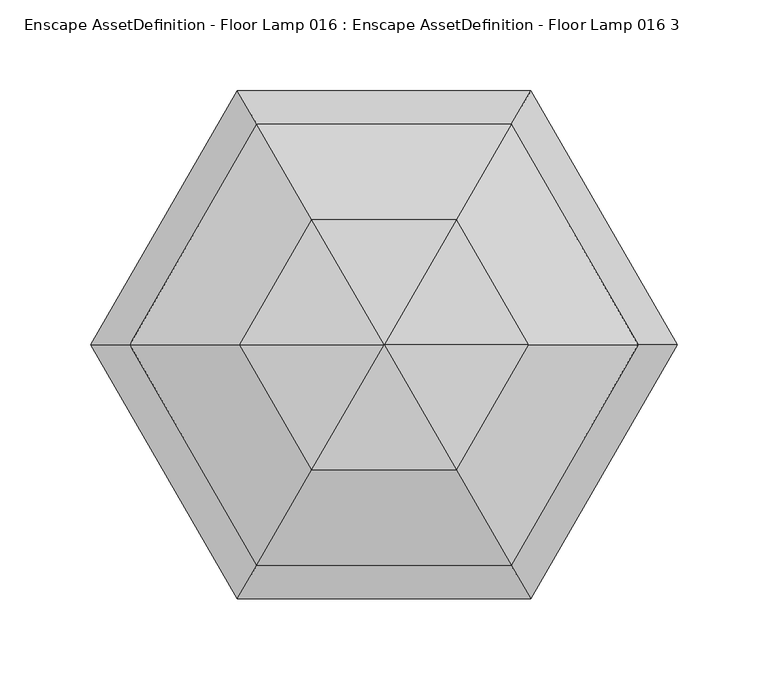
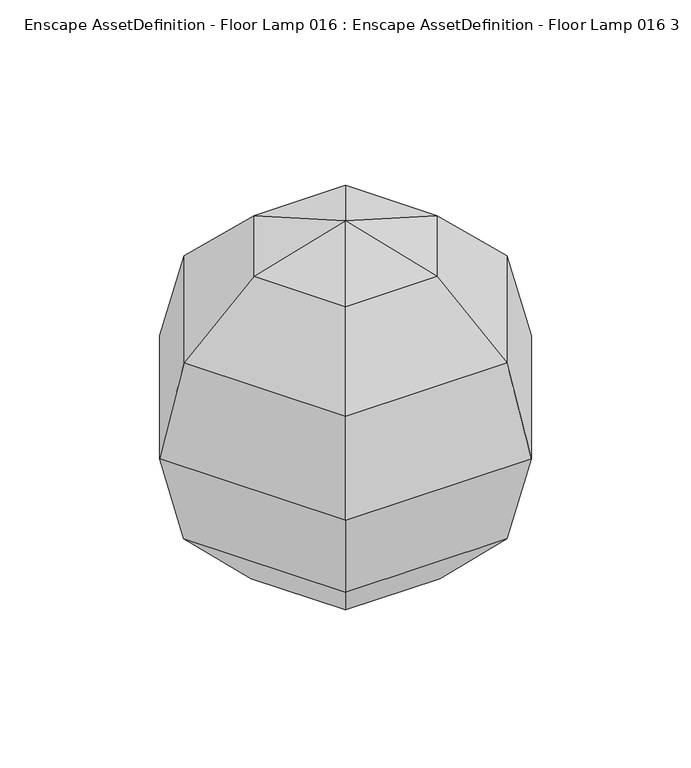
"""IFC4 building model written with IfcOpenShell, lengths in millimetres: geographic element geometry, Enscape AssetDefinition - Floor Lamp 016 : Enscape AssetDefinition - Floor Lamp 016 3."""

from ifc_helpers import new_model, si_unit, origin, place, context, project, spatial, triangles, source, transform, mapped, element, save


def enscape_assetdefinition_floor_lamp_016_enscape_559c5179(model_context):
    return source(origin(), model_context, "Body", "Tessellation", [
        triangles([(-70.1570049, -121.5152391, 218.5068661), (-140.3136647, 0.0, 218.5068661), (-161.7176725, 0.0, 137.8064049), (-70.1566643, 121.5152391, 218.5068661), (0.0, 0.0, 300.0000023), (-79.4818763, 0.0, 276.5820095), (-39.7411062, -68.8332849, 276.5820095), (-39.7407701, 68.8332849, 276.5820095), (-80.8586637, 140.0517167, 137.8064049), (-41.0015489, 71.0166863, -0.2439232), (-70.29818, 121.7602005, 57.1134061), (-82.0030978, 0.0, -0.2439232), (70.29818, 121.7602005, 57.1134061), (80.8590089, 140.0517167, 137.8064049), (41.0015489, 71.0166863, -0.2439232), (161.7176725, 0.0, 137.8064049), (41.0015489, -71.0166863, -0.2439232), (-140.5967052, 0.0, 57.1134061), (-41.0015489, -71.0166863, -0.2439232), (140.5967052, 0.0, 57.1134061), (70.29818, -121.7602005, 57.1134061), (82.0030978, 0.0, -0.2439232), (70.1570049, 121.5152391, 218.5068661), (-80.8590089, -140.0517167, 137.8064049), (80.8586637, -140.0517167, 137.8064049), (-70.2985297, -121.7602005, 57.1134061), (70.1566643, -121.5152391, 218.5068661), (79.4818763, 0.0, 276.5820095), (140.3136647, 0.0, 218.5068661), (39.7411062, 68.8332849, 276.5820095), (39.7407701, -68.8332849, 276.5820095)], [[5, 7, 31], [1, 31, 7], [5, 31, 28], [5, 30, 8], [5, 28, 30], [23, 8, 30], [29, 23, 30], [29, 30, 28], [27, 29, 28], [1, 27, 31], [27, 28, 31], [24, 27, 1], [18, 26, 24], [18, 19, 26], [26, 19, 17], [21, 17, 22], [26, 17, 21], [26, 21, 25], [24, 25, 27], [26, 25, 24], [25, 29, 27], [25, 16, 29], [16, 23, 29], [25, 21, 20], [21, 22, 20], [25, 20, 16], [15, 22, 17], [20, 22, 15], [17, 19, 12], [18, 12, 19], [12, 15, 17], [12, 10, 15], [13, 15, 10], [16, 20, 13], [20, 15, 13], [16, 14, 23], [16, 13, 14], [11, 10, 12], [14, 13, 11], [11, 12, 18], [13, 10, 11], [11, 18, 3], [18, 24, 3], [11, 3, 9], [14, 11, 9], [14, 9, 4], [23, 4, 8], [14, 4, 23], [5, 8, 6], [5, 6, 7], [4, 6, 8], [9, 3, 2], [2, 3, 24], [4, 2, 6], [2, 1, 7], [9, 2, 4], [2, 24, 1], [2, 7, 6]]),
    ])


if __name__ == "__main__":
    model = new_model("IFC4")
    model_context = context("Model", 3, world=origin())
    ifc_project = project(units=[si_unit("LENGTHUNIT", "METRE", prefix="MILLI")], contexts=[model_context])
    site = spatial("IfcSite", under=ifc_project)
    building = spatial("IfcBuilding", under=site)
    placement = place(None, origin())
    enscape_assetdefinition_floor_lamp_016_enscape_shape = enscape_assetdefinition_floor_lamp_016_enscape_559c5179(model_context)
    element("IfcGeographicElement", 1, ObjectType="Enscape AssetDefinition - Floor Lamp 016 : Enscape AssetDefinition - Floor Lamp 016 3", at=placement, inside=building, context=model_context, shape_type="MappedRepresentation", body=[
        mapped(enscape_assetdefinition_floor_lamp_016_enscape_shape, transform((0.0, 0.0, 0.0), x_axis=(1.0, 0.0, 0.0), y_axis=(0.0, 1.0, 0.0), z_axis=(0.0, 0.0, 1.0))),
    ])
    save(model, "model.ifc")
